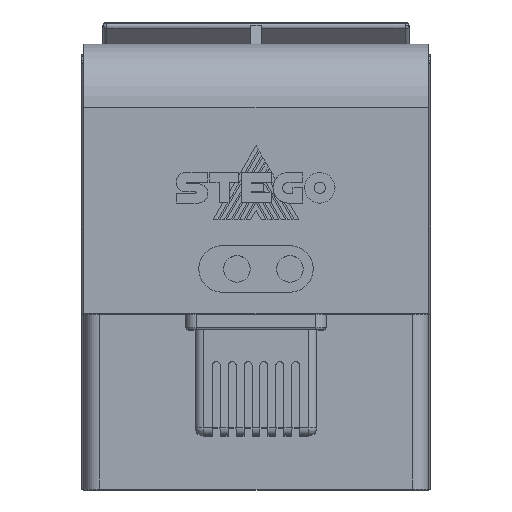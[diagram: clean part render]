
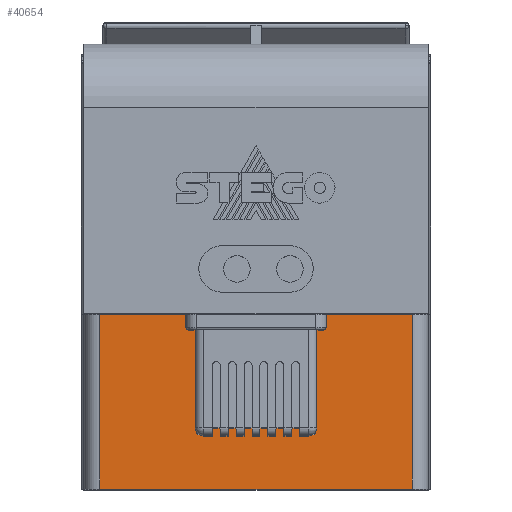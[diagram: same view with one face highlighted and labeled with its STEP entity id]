
A CAD part, top view. The second image highlights one B-rep face of the part: STEP entity #40654.
In plain terms, the highlighted planar face has unit normal (0, 0, 1).
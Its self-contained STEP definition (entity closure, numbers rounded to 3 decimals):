
#4784 = VERTEX_POINT ( 'NONE', #32784 ) ;
#6294 = CARTESIAN_POINT ( 'NONE',  ( 0.357, -27.75, 108. ) ) ;
#8095 = EDGE_CURVE ( 'NONE', #30449, #38830, #30229, .T. ) ;
#8999 = ORIENTED_EDGE ( 'NONE', *, *, #29628, .T. ) ;
#10304 = FACE_OUTER_BOUND ( 'NONE', #19354, .T. ) ;
#10402 = CARTESIAN_POINT ( 'NONE',  ( 0.357, 5.25, 108. ) ) ;
#11440 = ORIENTED_EDGE ( 'NONE', *, *, #18447, .T. ) ;
#11591 = DIRECTION ( 'NONE',  ( 0., 0., -1. ) ) ;
#12187 = LINE ( 'NONE', #6294, #29588 ) ;
#12644 = CARTESIAN_POINT ( 'NONE',  ( 62.5, 5.25, 108. ) ) ;
#14943 = ORIENTED_EDGE ( 'NONE', *, *, #25205, .T. ) ;
#14958 = VECTOR ( 'NONE', #40877, 1000. ) ;
#15170 = CARTESIAN_POINT ( 'NONE',  ( 62.5, 5.25, 108. ) ) ;
#15342 = VECTOR ( 'NONE', #17469, 1000. ) ;
#16974 = PLANE ( 'NONE',  #37609 ) ;
#17469 = DIRECTION ( 'NONE',  ( 0., -1., 0. ) ) ;
#18372 = CARTESIAN_POINT ( 'NONE',  ( 3.5, 5.25, 108. ) ) ;
#18447 = EDGE_CURVE ( 'NONE', #30449, #25854, #36221, .T. ) ;
#19354 = EDGE_LOOP ( 'NONE', ( #28309, #11440, #14943, #8999 ) ) ;
#22965 = CARTESIAN_POINT ( 'NONE',  ( 3.5, -27.75, 108. ) ) ;
#25205 = EDGE_CURVE ( 'NONE', #25854, #4784, #12187, .T. ) ;
#25587 = CARTESIAN_POINT ( 'NONE',  ( 3.5, 5.25, 108. ) ) ;
#25854 = VERTEX_POINT ( 'NONE', #22965 ) ;
#26151 = DIRECTION ( 'NONE',  ( 1., 0., 0. ) ) ;
#28309 = ORIENTED_EDGE ( 'NONE', *, *, #8095, .F. ) ;
#28458 = DIRECTION ( 'NONE',  ( -1., 0., 0. ) ) ;
#29588 = VECTOR ( 'NONE', #26151, 1000. ) ;
#29628 = EDGE_CURVE ( 'NONE', #4784, #38830, #32298, .T. ) ;
#30229 = LINE ( 'NONE', #40453, #14958 ) ;
#30449 = VERTEX_POINT ( 'NONE', #25587 ) ;
#32298 = LINE ( 'NONE', #15170, #38245 ) ;
#32784 = CARTESIAN_POINT ( 'NONE',  ( 62.5, -27.75, 108. ) ) ;
#36221 = LINE ( 'NONE', #18372, #15342 ) ;
#37609 = AXIS2_PLACEMENT_3D ( 'NONE', #10402, #11591, #28458 ) ;
#37760 = DIRECTION ( 'NONE',  ( 0., 1., 0. ) ) ;
#38245 = VECTOR ( 'NONE', #37760, 1000. ) ;
#38830 = VERTEX_POINT ( 'NONE', #12644 ) ;
#40453 = CARTESIAN_POINT ( 'NONE',  ( 0.357, 5.25, 108. ) ) ;
#40654 = ADVANCED_FACE ( 'NONE', ( #10304 ), #16974, .F. ) ;
#40877 = DIRECTION ( 'NONE',  ( 1., 0., 0. ) ) ;
